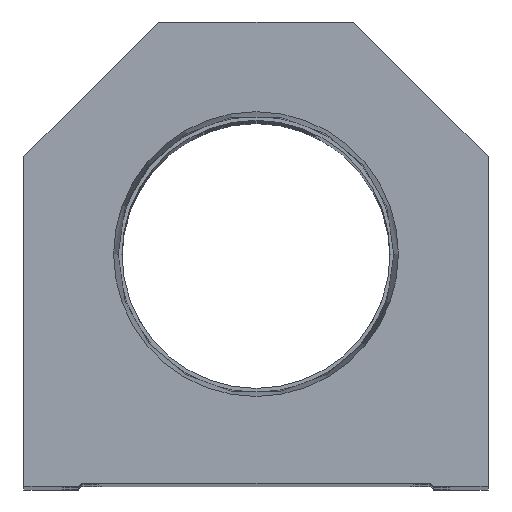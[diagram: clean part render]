
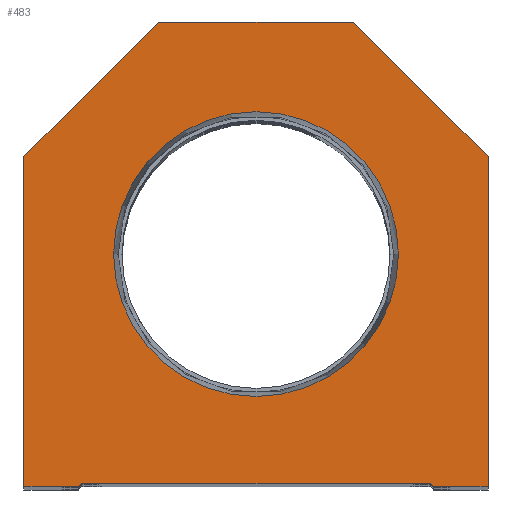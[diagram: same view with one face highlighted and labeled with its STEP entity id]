
A CAD part, top view. The second image highlights one B-rep face of the part: STEP entity #483.
In plain terms, the highlighted planar face has unit normal (0, 0, 1).
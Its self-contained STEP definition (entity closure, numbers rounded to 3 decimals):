
#483 = ADVANCED_FACE ( 'NONE', ( #20929, #19148 ), #4043, .T. ) ;
#712 = CARTESIAN_POINT ( 'NONE',  ( -29.1, 0., 0. ) ) ;
#806 = EDGE_CURVE ( 'NONE', #3678, #9347, #13047, .T. ) ;
#1106 = ORIENTED_EDGE ( 'NONE', *, *, #21136, .F. ) ;
#1856 = CARTESIAN_POINT ( 'NONE',  ( -28.6, 0., 0. ) ) ;
#1935 = CARTESIAN_POINT ( 'NONE',  ( -38.1, 0., 0. ) ) ;
#2324 = CARTESIAN_POINT ( 'NONE',  ( 23.374, 38.1, 0. ) ) ;
#2540 = VERTEX_POINT ( 'NONE', #17318 ) ;
#2890 = ORIENTED_EDGE ( 'NONE', *, *, #21767, .T. ) ;
#2929 = ORIENTED_EDGE ( 'NONE', *, *, #6284, .T. ) ;
#3171 = ORIENTED_EDGE ( 'NONE', *, *, #5063, .F. ) ;
#3407 = ORIENTED_EDGE ( 'NONE', *, *, #10794, .T. ) ;
#3585 = DIRECTION ( 'NONE',  ( 0.707, 0.707, 0. ) ) ;
#3678 = VERTEX_POINT ( 'NONE', #3874 ) ;
#3860 = DIRECTION ( 'NONE',  ( 1., 0., 0. ) ) ;
#3874 = CARTESIAN_POINT ( 'NONE',  ( -16., 76.2, 0. ) ) ;
#3973 = AXIS2_PLACEMENT_3D ( 'NONE', #15121, #6405, #15230 ) ;
#4043 = PLANE ( 'NONE',  #9819 ) ;
#4105 = DIRECTION ( 'NONE',  ( 0., 1., 0. ) ) ;
#4163 = DIRECTION ( 'NONE',  ( -1., 0., 0. ) ) ;
#4260 = VECTOR ( 'NONE', #5760, 1000. ) ;
#4283 = DIRECTION ( 'NONE',  ( -0.707, 0.707, 0. ) ) ;
#5063 = EDGE_CURVE ( 'NONE', #12694, #18695, #8830, .T. ) ;
#5308 = LINE ( 'NONE', #12714, #7860 ) ;
#5345 = EDGE_LOOP ( 'NONE', ( #3171, #1106 ) ) ;
#5553 = LINE ( 'NONE', #12304, #6079 ) ;
#5621 = CARTESIAN_POINT ( 'NONE',  ( 16., 76.2, 0. ) ) ;
#5658 = LINE ( 'NONE', #9102, #17024 ) ;
#5760 = DIRECTION ( 'NONE',  ( 0.707, -0.707, 0. ) ) ;
#5780 = VECTOR ( 'NONE', #6075, 1000. ) ;
#5964 = LINE ( 'NONE', #15792, #4260 ) ;
#6075 = DIRECTION ( 'NONE',  ( 0., -1., 0. ) ) ;
#6079 = VECTOR ( 'NONE', #3585, 1000. ) ;
#6184 = DIRECTION ( 'NONE',  ( -0.707, -0.707, 0. ) ) ;
#6284 = EDGE_CURVE ( 'NONE', #11150, #3678, #7919, .T. ) ;
#6405 = DIRECTION ( 'NONE',  ( 0., 0., 1. ) ) ;
#6500 = VERTEX_POINT ( 'NONE', #712 ) ;
#6521 = ORIENTED_EDGE ( 'NONE', *, *, #10160, .T. ) ;
#6966 = ORIENTED_EDGE ( 'NONE', *, *, #11409, .T. ) ;
#7018 = LINE ( 'NONE', #1856, #18782 ) ;
#7419 = EDGE_CURVE ( 'NONE', #13419, #16051, #5964, .T. ) ;
#7524 = LINE ( 'NONE', #19106, #5780 ) ;
#7727 = CARTESIAN_POINT ( 'NONE',  ( -23.374, 38.1, 0. ) ) ;
#7860 = VECTOR ( 'NONE', #4105, 1000. ) ;
#7919 = LINE ( 'NONE', #16062, #19721 ) ;
#8462 = VERTEX_POINT ( 'NONE', #15456 ) ;
#8573 = ORIENTED_EDGE ( 'NONE', *, *, #9908, .T. ) ;
#8830 = CIRCLE ( 'NONE', #21143, 23.374 ) ;
#9102 = CARTESIAN_POINT ( 'NONE',  ( -28.6, 0.5, 0. ) ) ;
#9141 = CARTESIAN_POINT ( 'NONE',  ( 0., 0., 0. ) ) ;
#9176 = CARTESIAN_POINT ( 'NONE',  ( 28.6, 0.5, 0. ) ) ;
#9237 = VECTOR ( 'NONE', #4283, 1000. ) ;
#9347 = VERTEX_POINT ( 'NONE', #10459 ) ;
#9819 = AXIS2_PLACEMENT_3D ( 'NONE', #9141, #15837, #12548 ) ;
#9908 = EDGE_CURVE ( 'NONE', #6500, #2540, #5553, .T. ) ;
#9919 = VERTEX_POINT ( 'NONE', #1935 ) ;
#10160 = EDGE_CURVE ( 'NONE', #16700, #8462, #5308, .T. ) ;
#10459 = CARTESIAN_POINT ( 'NONE',  ( -38.1, 54.1, 0. ) ) ;
#10641 = CARTESIAN_POINT ( 'NONE',  ( 28.6, 0., 0. ) ) ;
#10776 = CARTESIAN_POINT ( 'NONE',  ( 29.1, 0., 0. ) ) ;
#10794 = EDGE_CURVE ( 'NONE', #16051, #16700, #18658, .T. ) ;
#10858 = EDGE_CURVE ( 'NONE', #9347, #9919, #7524, .T. ) ;
#11150 = VERTEX_POINT ( 'NONE', #5621 ) ;
#11409 = EDGE_CURVE ( 'NONE', #9919, #6500, #7018, .T. ) ;
#11967 = ORIENTED_EDGE ( 'NONE', *, *, #17463, .T. ) ;
#12254 = CARTESIAN_POINT ( 'NONE',  ( 0., 38.1, 0. ) ) ;
#12304 = CARTESIAN_POINT ( 'NONE',  ( -14.55, 14.55, 0. ) ) ;
#12548 = DIRECTION ( 'NONE',  ( 1., 0., 0. ) ) ;
#12694 = VERTEX_POINT ( 'NONE', #2324 ) ;
#12714 = CARTESIAN_POINT ( 'NONE',  ( 38.1, 0., 0. ) ) ;
#12881 = CARTESIAN_POINT ( 'NONE',  ( 38.1, 0., 0. ) ) ;
#13047 = LINE ( 'NONE', #19778, #17564 ) ;
#13419 = VERTEX_POINT ( 'NONE', #9176 ) ;
#14345 = DIRECTION ( 'NONE',  ( 0., 0., 1. ) ) ;
#15121 = CARTESIAN_POINT ( 'NONE',  ( 0., 38.1, 0. ) ) ;
#15230 = DIRECTION ( 'NONE',  ( 1., 0., 0. ) ) ;
#15456 = CARTESIAN_POINT ( 'NONE',  ( 38.1, 54.1, 0. ) ) ;
#15792 = CARTESIAN_POINT ( 'NONE',  ( 14.55, 14.55, 0. ) ) ;
#15837 = DIRECTION ( 'NONE',  ( 0., 0., 1. ) ) ;
#16051 = VERTEX_POINT ( 'NONE', #10776 ) ;
#16062 = CARTESIAN_POINT ( 'NONE',  ( 16., 76.2, 0. ) ) ;
#16700 = VERTEX_POINT ( 'NONE', #12881 ) ;
#16848 = DIRECTION ( 'NONE',  ( 1., 0., 0. ) ) ;
#17024 = VECTOR ( 'NONE', #18890, 1000. ) ;
#17318 = CARTESIAN_POINT ( 'NONE',  ( -28.6, 0.5, 0. ) ) ;
#17463 = EDGE_CURVE ( 'NONE', #8462, #11150, #21260, .T. ) ;
#17479 = ORIENTED_EDGE ( 'NONE', *, *, #7419, .T. ) ;
#17564 = VECTOR ( 'NONE', #6184, 1000. ) ;
#18368 = EDGE_LOOP ( 'NONE', ( #6966, #8573, #2890, #17479, #3407, #6521, #11967, #2929, #19497, #21698 ) ) ;
#18658 = LINE ( 'NONE', #10641, #21271 ) ;
#18695 = VERTEX_POINT ( 'NONE', #7727 ) ;
#18759 = CIRCLE ( 'NONE', #3973, 23.374 ) ;
#18782 = VECTOR ( 'NONE', #16848, 1000. ) ;
#18890 = DIRECTION ( 'NONE',  ( 1., 0., 0. ) ) ;
#19106 = CARTESIAN_POINT ( 'NONE',  ( -38.1, 0., 0. ) ) ;
#19148 = FACE_OUTER_BOUND ( 'NONE', #18368, .T. ) ;
#19497 = ORIENTED_EDGE ( 'NONE', *, *, #806, .T. ) ;
#19721 = VECTOR ( 'NONE', #4163, 1000. ) ;
#19778 = CARTESIAN_POINT ( 'NONE',  ( -38.1, 54.1, 0. ) ) ;
#20219 = DIRECTION ( 'NONE',  ( 1., 0., 0. ) ) ;
#20929 = FACE_BOUND ( 'NONE', #5345, .T. ) ;
#21136 = EDGE_CURVE ( 'NONE', #18695, #12694, #18759, .T. ) ;
#21143 = AXIS2_PLACEMENT_3D ( 'NONE', #12254, #14345, #3860 ) ;
#21260 = LINE ( 'NONE', #21586, #9237 ) ;
#21271 = VECTOR ( 'NONE', #20219, 1000. ) ;
#21586 = CARTESIAN_POINT ( 'NONE',  ( 38.1, 54.1, 0. ) ) ;
#21698 = ORIENTED_EDGE ( 'NONE', *, *, #10858, .T. ) ;
#21767 = EDGE_CURVE ( 'NONE', #2540, #13419, #5658, .T. ) ;
